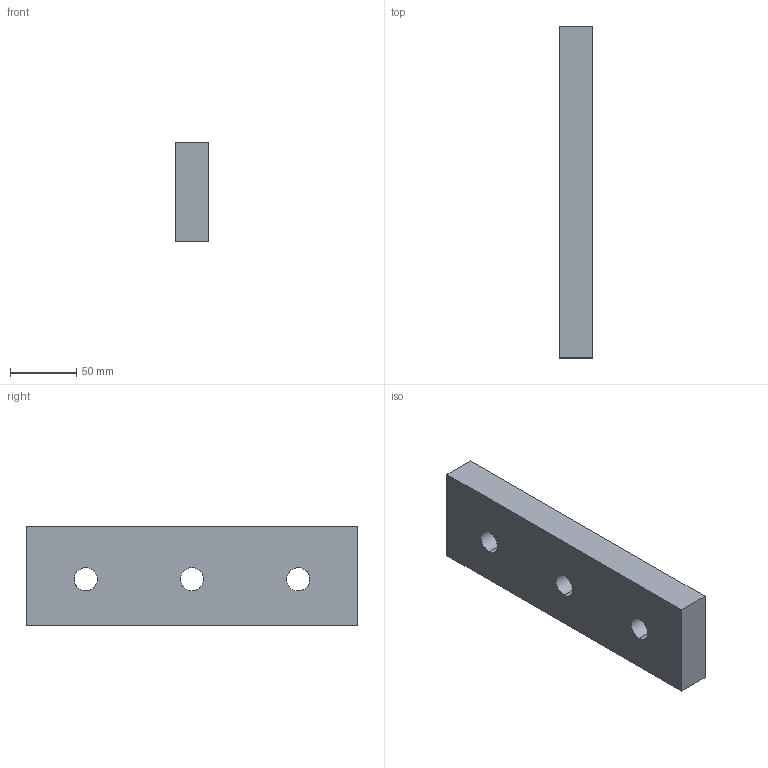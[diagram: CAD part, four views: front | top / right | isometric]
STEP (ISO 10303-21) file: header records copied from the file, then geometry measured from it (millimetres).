
FILE_DESCRIPTION(('CATIA V5 STEP Exchange'),'2;1');
FILE_NAME('C:\Users\Raffaele\Desktop\3D X SITO CF\A612\A611-075-250\A612-075-250.stp','2019-07-12T12:40:46+00:00',('none'),('none'),'CATIA Version 5 Release 20 GA (IN-10)','CATIA V5 STEP AP203','none');
FILE_SCHEMA(('CONFIG_CONTROL_DESIGN'));
Length unit declared in the file: millimetre
Products named in the file (1): A612-075-250
Bounding box: 25 x 250 x 75 mm (x, y, z)
Volume: 450710.4 mm3; surface area: 56430.2 mm2
Topology: 1 solids, 1 shells, 12 faces, 42 edges, 32 vertices
Faces by surface type: plane 6, cylinder 6
Entity records: 660 total; most frequent: CARTESIAN_POINT 255, ORIENTED_EDGE 84, DIRECTION 54, EDGE_CURVE 42, VERTEX_POINT 32, AXIS2_PLACEMENT_3D 25, VECTOR 18, EDGE_LOOP 18
